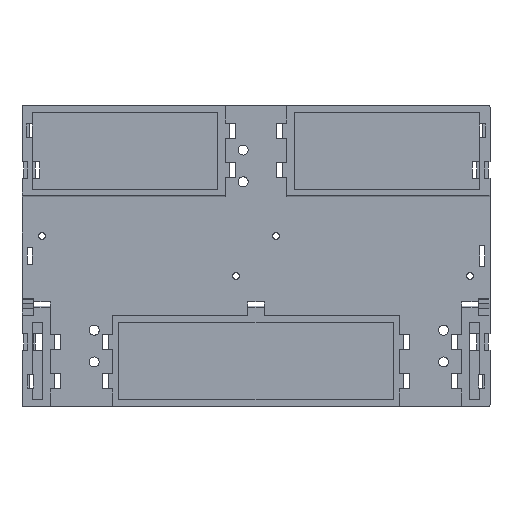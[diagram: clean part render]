
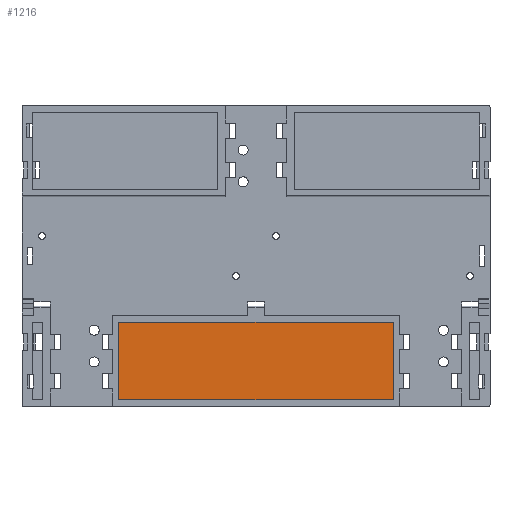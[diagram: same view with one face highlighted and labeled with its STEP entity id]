
A CAD part, front view. The second image highlights one B-rep face of the part: STEP entity #1216.
In plain terms, the highlighted planar face has unit normal (0, -1, 0).
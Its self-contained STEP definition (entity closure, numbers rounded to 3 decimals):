
#528 = VECTOR ( 'NONE', #5213, 1000. ) ;
#529 = FACE_OUTER_BOUND ( 'NONE', #12013, .T. ) ;
#594 = CARTESIAN_POINT ( 'NONE',  ( 111., 0., -88. ) ) ;
#833 = ORIENTED_EDGE ( 'NONE', *, *, #8499, .T. ) ;
#1216 = ADVANCED_FACE ( 'NONE', ( #529 ), #13518, .T. ) ;
#2062 = LINE ( 'NONE', #2343, #9116 ) ;
#2343 = CARTESIAN_POINT ( 'NONE',  ( 29., 0., -64.75 ) ) ;
#2916 = EDGE_CURVE ( 'NONE', #9010, #12057, #7691, .T. ) ;
#3440 = VERTEX_POINT ( 'NONE', #594 ) ;
#3541 = DIRECTION ( 'NONE',  ( -1., 0., 0. ) ) ;
#3618 = AXIS2_PLACEMENT_3D ( 'NONE', #9090, #6959, #9278 ) ;
#3727 = VERTEX_POINT ( 'NONE', #13244 ) ;
#4122 = LINE ( 'NONE', #7797, #11016 ) ;
#4747 = ORIENTED_EDGE ( 'NONE', *, *, #2916, .T. ) ;
#5134 = VECTOR ( 'NONE', #13235, 1000. ) ;
#5213 = DIRECTION ( 'NONE',  ( 0., 0., 1. ) ) ;
#6300 = CARTESIAN_POINT ( 'NONE',  ( 29., 0., -88. ) ) ;
#6959 = DIRECTION ( 'NONE',  ( 0., -1., 0. ) ) ;
#7022 = ORIENTED_EDGE ( 'NONE', *, *, #7140, .T. ) ;
#7140 = EDGE_CURVE ( 'NONE', #3440, #3727, #8963, .T. ) ;
#7691 = LINE ( 'NONE', #7818, #5134 ) ;
#7797 = CARTESIAN_POINT ( 'NONE',  ( 29., 0., -88. ) ) ;
#7818 = CARTESIAN_POINT ( 'NONE',  ( 29., 0., -64.75 ) ) ;
#8499 = EDGE_CURVE ( 'NONE', #12057, #3440, #4122, .T. ) ;
#8608 = EDGE_CURVE ( 'NONE', #3727, #9010, #2062, .T. ) ;
#8963 = LINE ( 'NONE', #11780, #528 ) ;
#9010 = VERTEX_POINT ( 'NONE', #13704 ) ;
#9090 = CARTESIAN_POINT ( 'NONE',  ( 0., 0., 0. ) ) ;
#9116 = VECTOR ( 'NONE', #3541, 1000. ) ;
#9278 = DIRECTION ( 'NONE',  ( 0., 0., -1. ) ) ;
#11016 = VECTOR ( 'NONE', #11104, 1000. ) ;
#11022 = ORIENTED_EDGE ( 'NONE', *, *, #8608, .T. ) ;
#11104 = DIRECTION ( 'NONE',  ( 1., 0., 0. ) ) ;
#11780 = CARTESIAN_POINT ( 'NONE',  ( 111., 0., -64.75 ) ) ;
#12013 = EDGE_LOOP ( 'NONE', ( #4747, #833, #7022, #11022 ) ) ;
#12057 = VERTEX_POINT ( 'NONE', #6300 ) ;
#13235 = DIRECTION ( 'NONE',  ( 0., 0., -1. ) ) ;
#13244 = CARTESIAN_POINT ( 'NONE',  ( 111., 0., -64.75 ) ) ;
#13518 = PLANE ( 'NONE',  #3618 ) ;
#13704 = CARTESIAN_POINT ( 'NONE',  ( 29., 0., -64.75 ) ) ;
